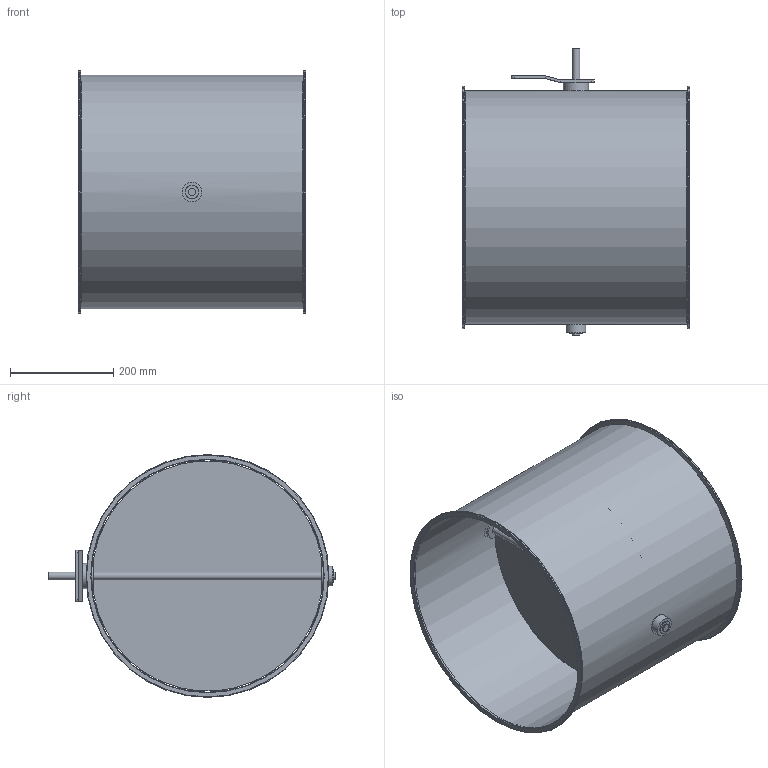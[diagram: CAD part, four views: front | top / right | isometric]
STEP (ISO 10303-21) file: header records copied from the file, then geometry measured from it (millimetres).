
FILE_DESCRIPTION(/* description */ (''),/* implementation_level */ '2;1');
FILE_NAME(/* name */ 'EA109-80B__450_L440_Belimo_Typ_SM.stp',/* time_stamp */ '2017-12-07T11:07:36+01:00',/* author */ (''),/* organization */ (''),/* preprocessor_version */ 'ST-DEVELOPER v11',/* originating_system */ 'SIEMENS UGS NX 6.0',/* authorisation */ '');
FILE_SCHEMA (('CONFIG_CONTROL_DESIGN'));
Length unit declared in the file: millimetre
Products named in the file (1): gars5544kxck
Bounding box: 440 x 554 x 470 mm (x, y, z)
Volume: 1126066.2 mm3; surface area: 1688748.2 mm2
Topology: 8 solids, 8 shells, 78 faces, 164 edges, 104 vertices
Faces by surface type: plane 36, cylinder 34, torus 6, cone 2
Full cylindrical faces by diameter (mm): 6.1 x6, 15 x3, 25 x3, 25.85 x2, 26 x2, 38 x3, 49 x1, 450 x1, 452 x1, 470 x2
Entity records: 2028 total; most frequent: CARTESIAN_POINT 363, DIRECTION 346, ORIENTED_EDGE 244, AXIS2_PLACEMENT_3D 149, EDGE_LOOP 140, EDGE_CURVE 122, FACE_BOUND 110, VERTEX_POINT 94
